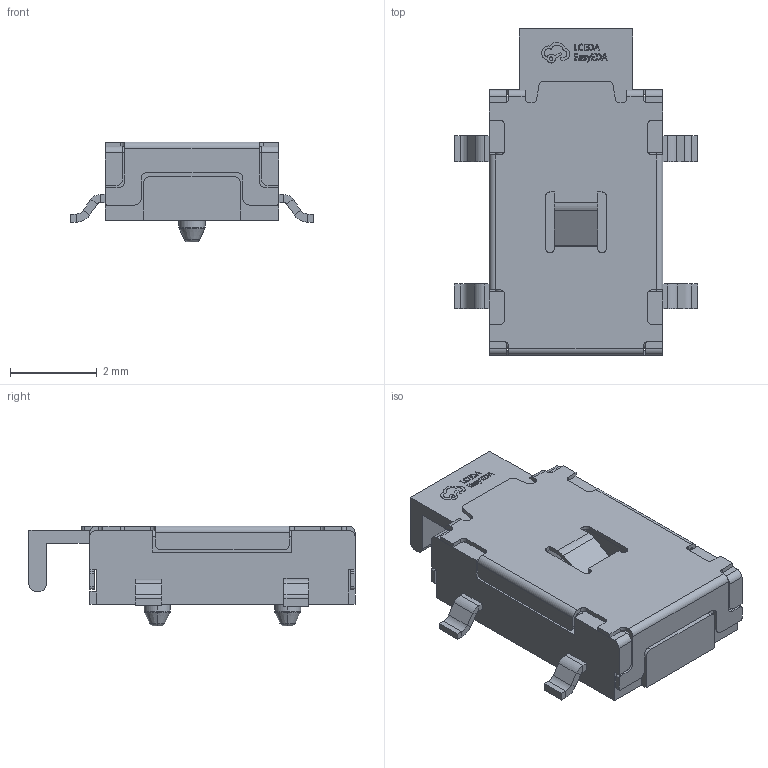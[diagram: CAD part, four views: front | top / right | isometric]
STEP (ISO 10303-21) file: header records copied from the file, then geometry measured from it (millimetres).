
FILE_DESCRIPTION (( 'STEP AP214' ), '1' );
FILE_NAME ('KEY-SMD_4P-L6.1-W4.0-H1.8-LS5.6-P3.4.step', '2022-07-02T15:09:08', ( '' ), ( '' ), 'SwSTEP 2.0', 'SolidWorks 2020', '' );
FILE_SCHEMA (( 'AUTOMOTIVE_DESIGN' ));
Length unit declared in the file: millimetre
Products named in the file (1): KEY-SMD_4P-L6.1-W4.0-H1.8-LS5.6-P3.4
Bounding box: 5.6 x 7.5 x 2.3 mm (x, y, z)
Volume: 44.2 mm3; surface area: 170.5 mm2
Topology: 2 solids, 2 shells, 581 faces, 1548 edges, 1004 vertices
Faces by surface type: plane 362, bspline 112, cylinder 95, torus 8, cone 4
Entity records: 24804 total; most frequent: CARTESIAN_POINT 5238, ORIENTED_EDGE 3096, DIRECTION 2470, EDGE_CURVE 1548, LINE 1110, VECTOR 1110, VERTEX_POINT 1004, AXIS2_PLACEMENT_3D 680
